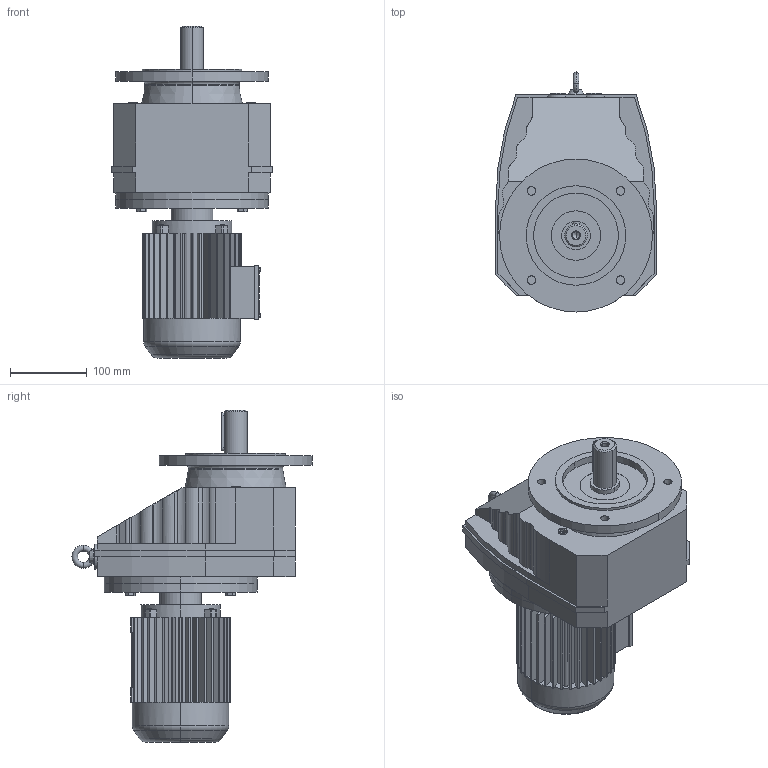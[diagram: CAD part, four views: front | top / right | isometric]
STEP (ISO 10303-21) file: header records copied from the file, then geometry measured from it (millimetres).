
FILE_DESCRIPTION(('Open CASCADE Model'),'2;1');
FILE_NAME('Open CASCADE Shape Model','2021-07-13T17:14:35',('Author'),( 'Open CASCADE'),'Open CASCADE STEP processor 6.3','Open CASCADE 6.3' ,'Unknown');
FILE_SCHEMA(('AUTOMOTIVE_DESIGN_CC2 { 1 2 10303 214 -1 1 5 4 }'));
Length unit declared in the file: millimetre
Products named in the file (3): 1_RXF77-Y63S-200; RXF57‵107_77_200.step; 萇儂_200_Y63S.step
Assembly tree (2 placements, depth 2):
  1_RXF77-Y63S-200
    RXF57‵107_77_200.step
    萇儂_200_Y63S.step
Bounding box: 210 x 314 x 434 mm (x, y, z)
Volume: 8445136.5 mm3; surface area: 524343.8 mm2
Topology: 2 solids, 2 shells, 627 faces, 1644 edges, 1057 vertices
Faces by surface type: plane 414, cylinder 187, torus 14, cone 12
Entity records: 43545 total; most frequent: CARTESIAN_POINT 12579, DIRECTION 5320, ORIENTED_EDGE 3284, PCURVE 3284, DEFINITIONAL_REPRESENTATION 3284, LINE 2741, VECTOR 2741, EDGE_CURVE 1642
